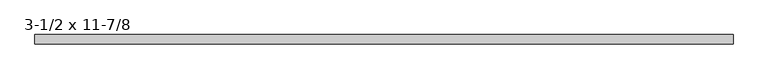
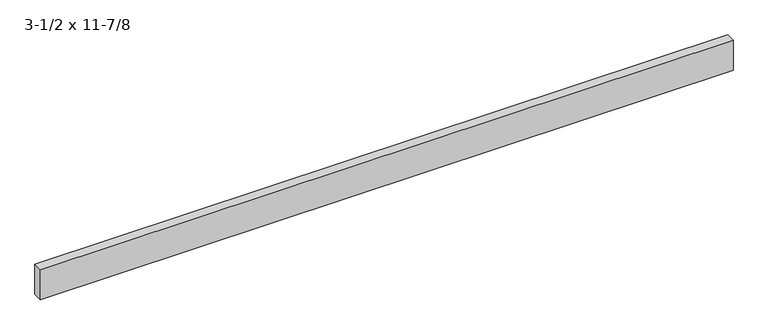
"""IFC4 building model written with IfcOpenShell, lengths in millimetres: beam geometry, Trus Joist - Parallam PSL - Beam Header : 3-1/2 x 11-7/8."""

from ifc_helpers import new_model, si_unit, frame, origin, place, context, project, spatial, polyline, outline, extrude, source, transform, mapped, element, save


def beam_3_1_2_x_11_7_8_4b78addb(model_context):
    return source(origin(), model_context, "Body", "SweptSolid", [
        extrude(outline(polyline([(3330.575, 44.45), (3330.575, -44.45), (-3241.675, -44.45), (-3241.675, 44.45), (3330.575, 44.45)])), frame((0.0, 0.0, -150.8125), z_axis=(0.0, 0.0, 1.0), x_axis=(1.0, 0.0, 0.0)), (0.0, 0.0, 1.0), 301.625),
    ])


if __name__ == "__main__":
    model = new_model("IFC4")
    model_context = context("Model", 3, world=origin())
    ifc_project = project(units=[si_unit("LENGTHUNIT", "METRE", prefix="MILLI")], contexts=[model_context])
    site = spatial("IfcSite", under=ifc_project)
    building = spatial("IfcBuilding", under=site)
    placement = place(None, origin())
    beam_3_1_2_x_11_7_8_shape = beam_3_1_2_x_11_7_8_4b78addb(model_context)
    element("IfcBeam", 1, ObjectType="Trus Joist - Parallam PSL - Beam Header : 3-1/2 x 11-7/8", at=placement, inside=building, context=model_context, shape_type="MappedRepresentation", body=[
        mapped(beam_3_1_2_x_11_7_8_shape, transform((0.0, 0.0, 0.0), x_axis=(1.0, 0.0, 0.0), y_axis=(0.0, 1.0, 0.0), z_axis=(0.0, 0.0, 1.0))),
    ])
    save(model, "model.ifc")
